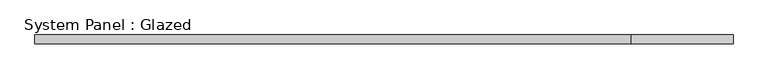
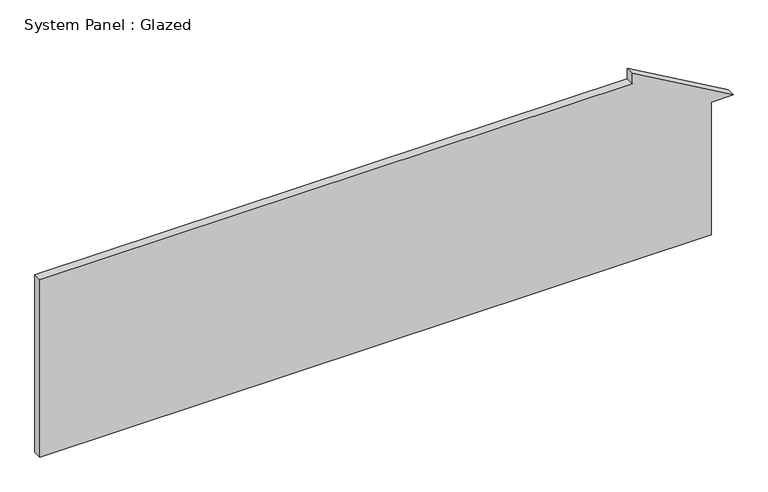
"""IFC4 building model written with IfcOpenShell, lengths in millimetres: plate geometry, System Panel : Glazed."""

from ifc_helpers import new_model, si_unit, frame, origin, place, context, project, spatial, polyline, outline, extrude, source, transform, mapped, element, save


def system_panel_glazed_906e36bb(model_context):
    return source(origin(), model_context, "Body", "SweptSolid", [
        extrude(outline(polyline([(0.0, -1009.65), (0.0, 946.15), (408.1909051, 946.15), (408.1909051, 1009.65), (577.85, 715.7918277), (546.1, 715.7918277), (546.1, -1009.65), (0.0, -1009.65)])), frame((0.0, -44.45, 0.0), z_axis=(0.0, 1.0, 0.0), x_axis=(0.0, 0.0, 1.0)), (0.0, 0.0, 1.0), 25.4),
    ])


if __name__ == "__main__":
    model = new_model("IFC4")
    model_context = context("Model", 3, world=origin())
    ifc_project = project(units=[si_unit("LENGTHUNIT", "METRE", prefix="MILLI")], contexts=[model_context])
    site = spatial("IfcSite", under=ifc_project)
    building = spatial("IfcBuilding", under=site)
    placement = place(None, origin())
    system_panel_glazed_shape = system_panel_glazed_906e36bb(model_context)
    element("IfcPlate", 1, ObjectType="System Panel : Glazed", at=placement, inside=building, context=model_context, shape_type="MappedRepresentation", body=[
        mapped(system_panel_glazed_shape, transform((0.0, 0.0, 0.0), x_axis=(1.0, 0.0, 0.0), y_axis=(0.0, 1.0, 0.0), z_axis=(0.0, 0.0, 1.0))),
    ])
    save(model, "model.ifc")
